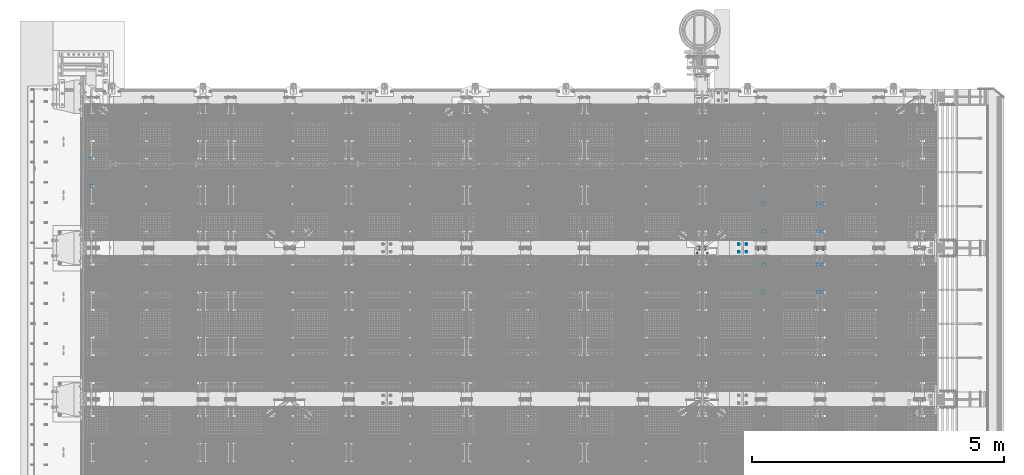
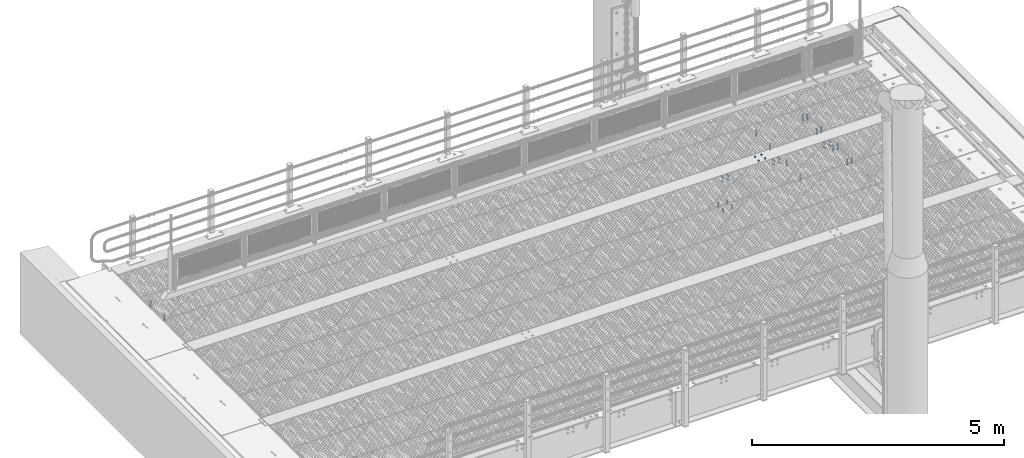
# One storey, part 30 of 1530: 12 mechanical fasteners.
"""IFC2X3 building model written with IfcOpenShell, lengths in millimetres."""

from ifc_helpers import new_model, si_unit, frame, origin_with_axes, place, context, subcontext, project, spatial, faceted_brep, source, transform, mapped, material, type_object, element, save


model = new_model("IFC2X3")

# Units and contexts
model_context = context("Model", 3, precision=1e-05, world=origin_with_axes())
body_context = subcontext(model_context, "Body", "Model", "MODEL_VIEW")
ifc_project = project(units=[si_unit("LENGTHUNIT", "METRE", prefix="MILLI"), si_unit("AREAUNIT", "SQUARE_METRE"), si_unit("VOLUMEUNIT", "CUBIC_METRE"), si_unit("MASSUNIT", "GRAM", prefix="KILO"), si_unit("TIMEUNIT", "SECOND"), si_unit("PLANEANGLEUNIT", "RADIAN"), si_unit("SOLIDANGLEUNIT", "STERADIAN"), si_unit("THERMODYNAMICTEMPERATUREUNIT", "DEGREE_CELSIUS"), si_unit("LUMINOUSINTENSITYUNIT", "LUMEN")], contexts=[model_context])

# Site, building, storey
site_placement = place(None, origin_with_axes())
site = spatial("IfcSite", under=ifc_project, at=site_placement, Name="Brattvåg", CompositionType="ELEMENT")
building_placement = place(site_placement, origin_with_axes())
building = spatial("IfcBuilding", under=site, at=building_placement, Name="Undefined", CompositionType="ELEMENT")
storey_placement = place(building_placement, origin_with_axes())
storey = spatial("IfcBuildingStorey", under=building, at=storey_placement, Name="Undefined", CompositionType="ELEMENT", Elevation=0.0)

# Mechanical fasteners
ifc_material = material(Name="8")
mechanical_fastener_type = type_object("IfcMechanicalFastenerType", Name="Bolt assembly")
shared_shape_1 = source(origin_with_axes(), body_context, "Body", "Brep", [
    faceted_brep([(17.3205080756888, -10.5, 0.0), (8.66025403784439, -10.5, 15.0), (-8.66025403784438, -10.5, 15.0), (-17.3205080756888, -10.5, 2.12115047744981e-15), (-8.66025403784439, -10.5, -15.0), (8.66025403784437, -10.5, -15.0), (8.66025403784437, 2.0, -15.0), (-8.66025403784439, 2.0, -15.0), (-17.3205080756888, 2.0, 2.12115047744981e-15), (-8.66025403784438, 2.0, 15.0), (8.66025403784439, 2.0, 15.0), (17.3205080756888, 2.0, 0.0), (10.0, 2.0, 0.0), (8.66025403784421, 2.0, 5.0000000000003), (4.9999999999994, 2.0, 8.66025403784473), (-1.03633598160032e-12, 2.0, 10.0), (-5.00000000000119, 2.0, 8.6602540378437), (-8.66025403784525, 2.0, 4.99999999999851), (-10.0, 2.0, -2.07267196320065e-12), (-8.66025403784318, 2.0, -5.00000000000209), (-4.99999999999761, 2.0, -8.66025403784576), (3.09790571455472e-12, 2.0, -10.0), (5.00000000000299, 2.0, -8.66025403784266), (8.66025403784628, 2.0, -4.99999999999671), (8.66025403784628, 142.0, -4.99999999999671), (5.00000000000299, 142.0, -8.66025403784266), (3.09790571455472e-12, 142.0, -10.0), (-4.99999999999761, 142.0, -8.66025403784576), (-8.66025403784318, 142.0, -5.00000000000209), (-10.0, 142.0, -2.07267196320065e-12), (-8.66025403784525, 142.0, 4.99999999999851), (-5.00000000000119, 142.0, 8.6602540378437), (-1.03633598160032e-12, 142.0, 10.0), (4.9999999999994, 142.0, 8.66025403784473), (8.66025403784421, 142.0, 5.0000000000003), (10.0, 142.0, 0.0), (18.5, 2.0, 0.0), (16.0214699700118, 2.0, 9.25000000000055), (9.2499999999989, 2.0, 16.0214699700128), (-1.9172215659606e-12, 2.0, 18.5), (-9.25000000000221, 2.0, 16.0214699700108), (-16.0214699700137, 2.0, 9.24999999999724), (-18.5, 2.0, -3.83444313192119e-12), (-16.0214699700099, 2.0, -9.25000000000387), (-9.24999999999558, 2.0, -16.0214699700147), (5.73112557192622e-12, 2.0, -18.5), (9.25000000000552, 2.0, -16.0214699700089), (16.0214699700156, 2.0, -9.24999999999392), (16.0214699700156, 5.0, -9.24999999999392), (9.25000000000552, 5.0, -16.0214699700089), (5.73112557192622e-12, 5.0, -18.5), (-9.24999999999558, 5.0, -16.0214699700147), (-16.0214699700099, 5.0, -9.25000000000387), (-18.5, 5.0, -3.83444313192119e-12), (-16.0214699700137, 5.0, 9.24999999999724), (-9.25000000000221, 5.0, 16.0214699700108), (-1.9172215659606e-12, 5.0, 18.5), (9.2499999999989, 5.0, 16.0214699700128), (16.0214699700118, 5.0, 9.25000000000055), (18.5, 5.0, 0.0), (18.5, 109.998931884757, 0.0), (16.0214699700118, 109.998931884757, 9.25000000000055), (9.2499999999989, 109.998931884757, 16.0214699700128), (-1.9172215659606e-12, 109.998931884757, 18.5), (-9.25000000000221, 109.998931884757, 16.0214699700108), (-16.0214699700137, 109.998931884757, 9.24999999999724), (-18.5, 109.998931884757, -3.83444313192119e-12), (-16.0214699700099, 109.998931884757, -9.25000000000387), (-9.24999999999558, 109.998931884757, -16.0214699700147), (5.73112557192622e-12, 109.998931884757, -18.5), (9.25000000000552, 109.998931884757, -16.0214699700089), (16.0214699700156, 109.998931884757, -9.24999999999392), (16.0214699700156, 112.998931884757, -9.24999999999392), (9.25000000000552, 112.998931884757, -16.0214699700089), (5.73112557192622e-12, 112.998931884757, -18.5), (-9.24999999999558, 112.998931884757, -16.0214699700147), (-16.0214699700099, 112.998931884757, -9.25000000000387), (-18.5, 112.998931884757, -3.83444313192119e-12), (-16.0214699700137, 112.998931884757, 9.24999999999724), (-9.25000000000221, 112.998931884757, 16.0214699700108), (-1.9172215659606e-12, 112.998931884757, 18.5), (9.2499999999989, 112.998931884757, 16.0214699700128), (16.0214699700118, 112.998931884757, 9.25000000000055), (18.5, 112.998931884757, 0.0), (17.3205080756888, 112.998931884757, 0.0), (8.66025403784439, 112.998931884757, 15.0), (-8.66025403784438, 112.998931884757, 15.0), (-17.3205080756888, 112.998931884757, 2.12115047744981e-15), (-8.66025403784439, 112.998931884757, -15.0), (8.66025403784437, 112.998931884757, -15.0), (8.66025403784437, 130.998931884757, -15.0), (-8.66025403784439, 130.998931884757, -15.0), (-17.3205080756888, 130.998931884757, 2.12115047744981e-15), (-8.66025403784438, 130.998931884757, 15.0), (8.66025403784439, 130.998931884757, 15.0), (17.3205080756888, 130.998931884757, 0.0)], [[[0, 1, 2, 3, 4, 5]], [[6, 7, 8, 9, 10, 11]], [[0, 11, 10, 1]], [[1, 10, 9, 2]], [[2, 9, 8, 3]], [[3, 8, 7, 4]], [[4, 7, 6, 5]], [[5, 6, 11, 0]], [[12, 13, 14, 15, 16, 17, 18, 19, 20, 21, 22, 23]], [[24, 25, 26, 27, 28, 29, 30, 31, 32, 33, 34, 35]], [[12, 35, 34, 13]], [[13, 34, 33, 14]], [[14, 33, 32, 15]], [[15, 32, 31, 16]], [[16, 31, 30, 17]], [[17, 30, 29, 18]], [[18, 29, 28, 19]], [[19, 28, 27, 20]], [[20, 27, 26, 21]], [[21, 26, 25, 22]], [[22, 25, 24, 23]], [[23, 24, 35, 12]], [[36, 37, 38, 39, 40, 41, 42, 43, 44, 45, 46, 47]], [[48, 49, 50, 51, 52, 53, 54, 55, 56, 57, 58, 59]], [[36, 59, 58, 37]], [[37, 58, 57, 38]], [[38, 57, 56, 39]], [[39, 56, 55, 40]], [[40, 55, 54, 41]], [[41, 54, 53, 42]], [[42, 53, 52, 43]], [[43, 52, 51, 44]], [[44, 51, 50, 45]], [[45, 50, 49, 46]], [[46, 49, 48, 47]], [[47, 48, 59, 36]], [[60, 61, 62, 63, 64, 65, 66, 67, 68, 69, 70, 71]], [[72, 73, 74, 75, 76, 77, 78, 79, 80, 81, 82, 83]], [[60, 83, 82, 61]], [[61, 82, 81, 62]], [[62, 81, 80, 63]], [[63, 80, 79, 64]], [[64, 79, 78, 65]], [[65, 78, 77, 66]], [[66, 77, 76, 67]], [[67, 76, 75, 68]], [[68, 75, 74, 69]], [[69, 74, 73, 70]], [[70, 73, 72, 71]], [[71, 72, 83, 60]], [[84, 85, 86, 87, 88, 89]], [[90, 91, 92, 93, 94, 95]], [[84, 95, 94, 85]], [[85, 94, 93, 86]], [[86, 93, 92, 87]], [[87, 92, 91, 88]], [[88, 91, 90, 89]], [[89, 90, 95, 84]]]),
])
for number, where, z_axis, x_axis, name in (
    (1, (14636.0047793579, 6327.91931152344, -25.0), (-1.0, 1.99999855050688e-09, 0.0), (0.0, 1.0, 0.0), "Bolt assembly"),
    (2, (14636.0047793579, 5121.91931152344, -25.0), (-1.0, 1.99999855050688e-09, 0.0), (0.0, 1.0, 0.0), "Bolt assembly"),
    (3, (14536.0148773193, 6327.9204864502, -25.0), (-1.0, 1.99999855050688e-09, 0.0), (0.0, 1.0, 0.0), "Bolt assembly"),
    (4, (13468.0119254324, 6327.99, -25.0), (-1.0, 1.99999855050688e-09, 0.0), (0.0, 1.0, 0.0), "Bolt assembly"),
    (5, (14536.0148773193, 5121.9204864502, -25.0), (-1.0, 1.99999855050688e-09, 0.0), (0.0, 1.0, 0.0), "Bolt assembly"),
    (6, (13468.0119254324, 5121.99, -25.0), (-1.0, 1.99999855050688e-09, 0.0), (0.0, 1.0, 0.0), "Bolt assembly"),
    (7, (137.004779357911, 7224.91931152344, -25.0), (-1.0, 1.99999855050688e-09, 0.0), (0.0, 1.0, 0.0), "Bolt assembly"),
):
    element("IfcMechanicalFastener", number, at=place(storey_placement, frame(where, z_axis=z_axis, x_axis=x_axis)), inside=storey, type_object=mechanical_fastener_type, material=ifc_material, Name=name, NominalDiameter=20.0, NominalLength=140.0, context=body_context, shape_type="MappedRepresentation", body=[
        mapped(shared_shape_1, transform((0.0, 0.0, 0.0))),
        mapped(shared_shape_1, transform((549.999999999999, 0.0, 0.0))),
    ])
shared_shape_2 = source(origin_with_axes(), body_context, "Body", "Brep", [
    faceted_brep([(16.0, 0.0, 0.0), (13.8564064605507, 0.0, 8.00000000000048), (7.99999999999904, 0.0, 13.8564064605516), (-1.65813757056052e-12, 0.0, 16.0), (-8.00000000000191, 0.0, 13.8564064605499), (-13.8564064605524, 0.0, 7.99999999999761), (-16.0, 0.0, -3.31627514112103e-12), (-13.8564064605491, 0.0, -8.00000000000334), (-7.99999999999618, 0.0, -13.8564064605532), (4.95664914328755e-12, 0.0, -16.0), (8.00000000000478, 0.0, -13.8564064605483), (13.8564064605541, 0.0, -7.99999999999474), (13.8564064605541, 30.1, -7.99999999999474), (8.00000000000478, 30.1, -13.8564064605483), (4.95664914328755e-12, 30.1, -16.0), (-7.99999999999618, 30.1, -13.8564064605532), (-13.8564064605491, 30.1, -8.00000000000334), (-16.0, 30.1, -3.31627514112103e-12), (-13.8564064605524, 30.1, 7.99999999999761), (-8.00000000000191, 30.1, 13.8564064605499), (-1.65813757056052e-12, 30.1, 16.0), (7.99999999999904, 30.1, 13.8564064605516), (13.8564064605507, 30.1, 8.00000000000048), (16.0, 30.1, 0.0)], [[[0, 1, 2, 3, 4, 5, 6, 7, 8, 9, 10, 11]], [[12, 13, 14, 15, 16, 17, 18, 19, 20, 21, 22, 23]], [[0, 23, 22, 1]], [[1, 22, 21, 2]], [[2, 21, 20, 3]], [[3, 20, 19, 4]], [[4, 19, 18, 5]], [[5, 18, 17, 6]], [[6, 17, 16, 7]], [[7, 16, 15, 8]], [[8, 15, 14, 9]], [[9, 14, 13, 10]], [[10, 13, 12, 11]], [[11, 12, 23, 0]]]),
])
mechanical_fastener_1_placement = place(storey_placement, frame((13125.0, 6000.0, 0.0), z_axis=(0.0, -1.0, 0.0), x_axis=(-1.0, 1.99999855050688e-09, 0.0)))
element("IfcMechanicalFastener", 8, at=mechanical_fastener_1_placement, inside=storey, type_object=mechanical_fastener_type, material=ifc_material, Name="Bolt assembly", NominalDiameter=30.0, NominalLength=30.0, context=body_context, shape_type="MappedRepresentation", body=[
    mapped(shared_shape_2, transform((0.0, 0.0, -75.0))),
    mapped(shared_shape_2, transform((150.0, 0.0, -75.0))),
    mapped(shared_shape_2, transform((0.0, 0.0, 75.0))),
    mapped(shared_shape_2, transform((150.0, 0.0, 75.0))),
])
shared_shape_3 = source(origin_with_axes(), body_context, "Body", "Brep", [
    faceted_brep([(20.7846096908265, -19.0, 0.0), (10.3923048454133, -19.0, 18.0), (-10.3923048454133, -19.0, 18.0), (-20.7846096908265, -19.0, 2.54538057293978e-15), (-10.3923048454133, -19.0, -18.0), (10.3923048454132, -19.0, -18.0), (10.3923048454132, -4.0, -18.0), (-10.3923048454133, -4.0, -18.0), (-20.7846096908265, -4.0, 2.54538057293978e-15), (-10.3923048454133, -4.0, 18.0), (10.3923048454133, -4.0, 18.0), (20.7846096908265, -4.0, 0.0), (12.0, -4.0, 0.0), (10.3923048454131, -4.0, 6.00000000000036), (5.99999999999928, -4.0, 10.3923048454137), (-1.24360317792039e-12, -4.0, 12.0), (-6.00000000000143, -4.0, 10.3923048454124), (-10.3923048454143, -4.0, 5.99999999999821), (-12.0, -4.0, -2.48720635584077e-12), (-10.3923048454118, -4.0, -6.00000000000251), (-5.99999999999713, -4.0, -10.3923048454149), (3.71748685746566e-12, -4.0, -12.0), (6.00000000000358, -4.0, -10.3923048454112), (10.3923048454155, -4.0, -5.99999999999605), (10.3923048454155, 86.0, -5.99999999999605), (6.00000000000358, 86.0, -10.3923048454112), (3.71748685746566e-12, 86.0, -12.0), (-5.99999999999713, 86.0, -10.3923048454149), (-10.3923048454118, 86.0, -6.00000000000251), (-12.0, 86.0, -2.48720635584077e-12), (-10.3923048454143, 86.0, 5.99999999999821), (-6.00000000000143, 86.0, 10.3923048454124), (-1.24360317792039e-12, 86.0, 12.0), (5.99999999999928, 86.0, 10.3923048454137), (10.3923048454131, 86.0, 6.00000000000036), (12.0, 86.0, 0.0), (22.0, -4.0, 0.0), (19.0525588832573, -4.0, 11.0000000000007), (10.9999999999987, -4.0, 19.0525588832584), (-2.27993915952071e-12, -4.0, 22.0), (-11.0000000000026, -4.0, 19.0525588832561), (-19.0525588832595, -4.0, 10.9999999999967), (-22.0, -4.0, -4.55987831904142e-12), (-19.052558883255, -4.0, -11.0000000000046), (-10.9999999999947, -4.0, -19.0525588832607), (6.81539257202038e-12, -4.0, -22.0), (11.0000000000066, -4.0, -19.0525588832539), (19.0525588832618, -4.0, -10.9999999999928), (19.0525588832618, 0.0, -10.9999999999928), (11.0000000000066, 0.0, -19.0525588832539), (6.81539257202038e-12, 0.0, -22.0), (-10.9999999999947, 0.0, -19.0525588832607), (-19.052558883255, 0.0, -11.0000000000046), (-22.0, 0.0, -4.55987831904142e-12), (-19.0525588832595, 0.0, 10.9999999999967), (-11.0000000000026, 0.0, 19.0525588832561), (-2.27993915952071e-12, 0.0, 22.0), (10.9999999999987, 0.0, 19.0525588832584), (19.0525588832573, 0.0, 11.0000000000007), (22.0, 0.0, 0.0), (22.0, 54.9998779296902, 0.0), (19.0525588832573, 54.9998779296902, 11.0000000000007), (10.9999999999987, 54.9998779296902, 19.0525588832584), (-2.27993915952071e-12, 54.9998779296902, 22.0), (-11.0000000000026, 54.9998779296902, 19.0525588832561), (-19.0525588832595, 54.9998779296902, 10.9999999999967), (-22.0, 54.9998779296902, -4.55987831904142e-12), (-19.052558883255, 54.9998779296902, -11.0000000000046), (-10.9999999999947, 54.9998779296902, -19.0525588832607), (6.81539257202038e-12, 54.9998779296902, -22.0), (11.0000000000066, 54.9998779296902, -19.0525588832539), (19.0525588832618, 54.9998779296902, -10.9999999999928), (19.0525588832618, 58.9998779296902, -10.9999999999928), (11.0000000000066, 58.9998779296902, -19.0525588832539), (6.81539257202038e-12, 58.9998779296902, -22.0), (-10.9999999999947, 58.9998779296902, -19.0525588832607), (-19.052558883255, 58.9998779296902, -11.0000000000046), (-22.0, 58.9998779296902, -4.55987831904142e-12), (-19.0525588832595, 58.9998779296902, 10.9999999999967), (-11.0000000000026, 58.9998779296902, 19.0525588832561), (-2.27993915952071e-12, 58.9998779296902, 22.0), (10.9999999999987, 58.9998779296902, 19.0525588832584), (19.0525588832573, 58.9998779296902, 11.0000000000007), (22.0, 58.9998779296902, 0.0), (20.7846096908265, 58.9998779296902, 0.0), (10.3923048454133, 58.9998779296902, 18.0), (-10.3923048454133, 58.9998779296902, 18.0), (-20.7846096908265, 58.9998779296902, 2.54538057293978e-15), (-10.3923048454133, 58.9998779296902, -18.0), (10.3923048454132, 58.9998779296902, -18.0), (10.3923048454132, 80.4998779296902, -18.0), (-10.3923048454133, 80.4998779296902, -18.0), (-20.7846096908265, 80.4998779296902, 2.54538057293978e-15), (-10.3923048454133, 80.4998779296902, 18.0), (10.3923048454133, 80.4998779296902, 18.0), (20.7846096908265, 80.4998779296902, 0.0)], [[[0, 1, 2, 3, 4, 5]], [[6, 7, 8, 9, 10, 11]], [[0, 11, 10, 1]], [[1, 10, 9, 2]], [[2, 9, 8, 3]], [[3, 8, 7, 4]], [[4, 7, 6, 5]], [[5, 6, 11, 0]], [[12, 13, 14, 15, 16, 17, 18, 19, 20, 21, 22, 23]], [[24, 25, 26, 27, 28, 29, 30, 31, 32, 33, 34, 35]], [[12, 35, 34, 13]], [[13, 34, 33, 14]], [[14, 33, 32, 15]], [[15, 32, 31, 16]], [[16, 31, 30, 17]], [[17, 30, 29, 18]], [[18, 29, 28, 19]], [[19, 28, 27, 20]], [[20, 27, 26, 21]], [[21, 26, 25, 22]], [[22, 25, 24, 23]], [[23, 24, 35, 12]], [[36, 37, 38, 39, 40, 41, 42, 43, 44, 45, 46, 47]], [[48, 49, 50, 51, 52, 53, 54, 55, 56, 57, 58, 59]], [[36, 59, 58, 37]], [[37, 58, 57, 38]], [[38, 57, 56, 39]], [[39, 56, 55, 40]], [[40, 55, 54, 41]], [[41, 54, 53, 42]], [[42, 53, 52, 43]], [[43, 52, 51, 44]], [[44, 51, 50, 45]], [[45, 50, 49, 46]], [[46, 49, 48, 47]], [[47, 48, 59, 36]], [[60, 61, 62, 63, 64, 65, 66, 67, 68, 69, 70, 71]], [[72, 73, 74, 75, 76, 77, 78, 79, 80, 81, 82, 83]], [[60, 83, 82, 61]], [[61, 82, 81, 62]], [[62, 81, 80, 63]], [[63, 80, 79, 64]], [[64, 79, 78, 65]], [[65, 78, 77, 66]], [[66, 77, 76, 67]], [[67, 76, 75, 68]], [[68, 75, 74, 69]], [[69, 74, 73, 70]], [[70, 73, 72, 71]], [[71, 72, 83, 60]], [[84, 85, 86, 87, 88, 89]], [[90, 91, 92, 93, 94, 95]], [[84, 95, 94, 85]], [[85, 94, 93, 86]], [[86, 93, 92, 87]], [[87, 92, 91, 88]], [[88, 91, 90, 89]], [[89, 90, 95, 84]]]),
    faceted_brep([(13.0, 0.0999999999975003, 0.0), (11.2583302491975, 0.0999999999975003, 6.50000000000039), (6.49999999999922, 0.0999999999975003, 11.2583302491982), (-1.34723677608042e-12, 0.0999999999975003, 13.0), (-6.50000000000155, 0.0999999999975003, 11.2583302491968), (-11.2583302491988, 0.0999999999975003, 6.49999999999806), (-13.0, 0.0999999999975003, -2.69447355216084e-12), (-11.2583302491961, 0.0999999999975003, -6.50000000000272), (-6.4999999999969, 0.0999999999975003, -11.2583302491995), (4.02727742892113e-12, 0.0999999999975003, -13.0), (6.50000000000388, 0.0999999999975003, -11.2583302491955), (11.2583302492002, 0.0999999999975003, -6.49999999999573), (11.2583302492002, 30.1, -6.49999999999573), (6.50000000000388, 30.1, -11.2583302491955), (4.02727742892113e-12, 30.1, -13.0), (-6.4999999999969, 30.1, -11.2583302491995), (-11.2583302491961, 30.1, -6.50000000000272), (-13.0, 30.1, -2.69447355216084e-12), (-11.2583302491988, 30.1, 6.49999999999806), (-6.50000000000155, 30.1, 11.2583302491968), (-1.34723677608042e-12, 30.1, 13.0), (6.49999999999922, 30.1, 11.2583302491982), (11.2583302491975, 30.1, 6.50000000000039), (13.0, 30.1, 0.0), (13.0, 29.8998779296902, 0.0), (11.2583302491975, 29.8998779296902, 6.50000000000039), (6.49999999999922, 29.8998779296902, 11.2583302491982), (-1.34723677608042e-12, 29.8998779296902, 13.0), (-6.50000000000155, 29.8998779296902, 11.2583302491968), (-11.2583302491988, 29.8998779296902, 6.49999999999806), (-13.0, 29.8998779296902, -2.69447355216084e-12), (-11.2583302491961, 29.8998779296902, -6.50000000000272), (-6.4999999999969, 29.8998779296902, -11.2583302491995), (4.02727742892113e-12, 29.8998779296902, -13.0), (6.50000000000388, 29.8998779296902, -11.2583302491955), (11.2583302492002, 29.8998779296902, -6.49999999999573), (11.2583302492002, 54.9998779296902, -6.49999999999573), (6.50000000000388, 54.9998779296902, -11.2583302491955), (4.02727742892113e-12, 54.9998779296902, -13.0), (-6.4999999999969, 54.9998779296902, -11.2583302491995), (-11.2583302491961, 54.9998779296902, -6.50000000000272), (-13.0, 54.9998779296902, -2.69447355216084e-12), (-11.2583302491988, 54.9998779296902, 6.49999999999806), (-6.50000000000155, 54.9998779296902, 11.2583302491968), (-1.34723677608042e-12, 54.9998779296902, 13.0), (6.49999999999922, 54.9998779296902, 11.2583302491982), (11.2583302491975, 54.9998779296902, 6.50000000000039), (13.0, 54.9998779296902, 0.0)], [[[0, 1, 2, 3, 4, 5, 6, 7, 8, 9, 10, 11]], [[12, 13, 14, 15, 16, 17, 18, 19, 20, 21, 22, 23]], [[0, 23, 22, 1]], [[1, 22, 21, 2]], [[2, 21, 20, 3]], [[3, 20, 19, 4]], [[4, 19, 18, 5]], [[5, 18, 17, 6]], [[6, 17, 16, 7]], [[7, 16, 15, 8]], [[8, 15, 14, 9]], [[9, 14, 13, 10]], [[10, 13, 12, 11]], [[11, 12, 23, 0]], [[24, 25, 26, 27, 28, 29, 30, 31, 32, 33, 34, 35]], [[36, 37, 38, 39, 40, 41, 42, 43, 44, 45, 46, 47]], [[24, 47, 46, 25]], [[25, 46, 45, 26]], [[26, 45, 44, 27]], [[27, 44, 43, 28]], [[28, 43, 42, 29]], [[29, 42, 41, 30]], [[30, 41, 40, 31]], [[31, 40, 39, 32]], [[32, 39, 38, 33]], [[33, 38, 37, 34]], [[34, 37, 36, 35]], [[35, 36, 47, 24]]]),
])
mechanical_fastener_2_placement = place(storey_placement, frame((12250.0000839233, 6100.0, -860.0), z_axis=(1.0, 0.0, 0.0), x_axis=(0.0, -1.0, 0.0)))
element("IfcMechanicalFastener", 9, at=mechanical_fastener_2_placement, inside=storey, type_object=mechanical_fastener_type, material=ifc_material, Name="Bolt assembly", NominalDiameter=24.0, NominalLength=90.0, context=body_context, shape_type="MappedRepresentation", body=[
    mapped(shared_shape_3, transform((0.0, 0.0, -100.0))),
    mapped(shared_shape_3, transform((200.0, 0.0, -100.0))),
    mapped(shared_shape_3, transform((0.0, 0.0, 100.0))),
    mapped(shared_shape_3, transform((200.0, 0.0, 100.0))),
])
shared_shape_4 = source(origin_with_axes(), body_context, "Body", "Brep", [
    faceted_brep([(17.3205080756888, -15.5000000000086, 0.0), (8.66025403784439, -15.5000000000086, 15.0), (-8.66025403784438, -15.5000000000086, 15.0), (-17.3205080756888, -15.5000000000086, 2.12115047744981e-15), (-8.66025403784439, -15.5000000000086, -15.0), (8.66025403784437, -15.5000000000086, -15.0), (8.66025403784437, -3.00000000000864, -15.0), (-8.66025403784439, -3.00000000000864, -15.0), (-17.3205080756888, -3.00000000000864, 2.12115047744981e-15), (-8.66025403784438, -3.00000000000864, 15.0), (8.66025403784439, -3.00000000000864, 15.0), (17.3205080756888, -3.00000000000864, 0.0), (10.0, -3.00000000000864, 0.0), (8.66025403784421, -3.00000000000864, 5.0000000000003), (4.9999999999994, -3.00000000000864, 8.66025403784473), (-1.03633598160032e-12, -3.00000000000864, 10.0), (-5.00000000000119, -3.00000000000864, 8.6602540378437), (-8.66025403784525, -3.00000000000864, 4.99999999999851), (-10.0, -3.00000000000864, -2.07267196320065e-12), (-8.66025403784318, -3.00000000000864, -5.00000000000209), (-4.99999999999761, -3.00000000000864, -8.66025403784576), (3.09790571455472e-12, -3.00000000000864, -10.0), (5.00000000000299, -3.00000000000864, -8.66025403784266), (8.66025403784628, -3.00000000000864, -4.99999999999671), (8.66025403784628, 72.0, -4.99999999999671), (5.00000000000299, 72.0, -8.66025403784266), (3.09790571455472e-12, 72.0, -10.0), (-4.99999999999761, 72.0, -8.66025403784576), (-8.66025403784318, 72.0, -5.00000000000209), (-10.0, 72.0, -2.07267196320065e-12), (-8.66025403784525, 72.0, 4.99999999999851), (-5.00000000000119, 72.0, 8.6602540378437), (-1.03633598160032e-12, 72.0, 10.0), (4.9999999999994, 72.0, 8.66025403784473), (8.66025403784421, 72.0, 5.0000000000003), (10.0, 72.0, 0.0), (18.5, -3.00000000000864, 0.0), (16.0214699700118, -3.00000000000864, 9.25000000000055), (9.2499999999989, -3.00000000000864, 16.0214699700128), (-1.9172215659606e-12, -3.00000000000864, 18.5), (-9.25000000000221, -3.00000000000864, 16.0214699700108), (-16.0214699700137, -3.00000000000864, 9.24999999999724), (-18.5, -3.00000000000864, -3.83444313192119e-12), (-16.0214699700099, -3.00000000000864, -9.25000000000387), (-9.24999999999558, -3.00000000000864, -16.0214699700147), (5.73112557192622e-12, -3.00000000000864, -18.5), (9.25000000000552, -3.00000000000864, -16.0214699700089), (16.0214699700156, -3.00000000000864, -9.24999999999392), (16.0214699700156, -8.64019966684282e-12, -9.24999999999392), (9.25000000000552, -8.64019966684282e-12, -16.0214699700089), (5.73112557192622e-12, -8.64019966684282e-12, -18.5), (-9.24999999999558, -8.64019966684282e-12, -16.0214699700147), (-16.0214699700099, -8.64019966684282e-12, -9.25000000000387), (-18.5, -8.64019966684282e-12, -3.83444313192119e-12), (-16.0214699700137, -8.64019966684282e-12, 9.24999999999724), (-9.25000000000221, -8.64019966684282e-12, 16.0214699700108), (-1.9172215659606e-12, -8.64019966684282e-12, 18.5), (9.2499999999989, -8.64019966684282e-12, 16.0214699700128), (16.0214699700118, -8.64019966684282e-12, 9.25000000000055), (18.5, -8.64019966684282e-12, 0.0), (18.5, 46.000061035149, 0.0), (16.0214699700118, 46.000061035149, 9.25000000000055), (9.2499999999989, 46.000061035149, 16.0214699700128), (-1.9172215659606e-12, 46.000061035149, 18.5), (-9.25000000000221, 46.000061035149, 16.0214699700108), (-16.0214699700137, 46.000061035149, 9.24999999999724), (-18.5, 46.000061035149, -3.83444313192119e-12), (-16.0214699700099, 46.000061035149, -9.25000000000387), (-9.24999999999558, 46.000061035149, -16.0214699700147), (5.73112557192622e-12, 46.000061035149, -18.5), (9.25000000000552, 46.000061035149, -16.0214699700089), (16.0214699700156, 46.000061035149, -9.24999999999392), (16.0214699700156, 49.000061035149, -9.24999999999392), (9.25000000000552, 49.000061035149, -16.0214699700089), (5.73112557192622e-12, 49.000061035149, -18.5), (-9.24999999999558, 49.000061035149, -16.0214699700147), (-16.0214699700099, 49.000061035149, -9.25000000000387), (-18.5, 49.000061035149, -3.83444313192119e-12), (-16.0214699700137, 49.000061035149, 9.24999999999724), (-9.25000000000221, 49.000061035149, 16.0214699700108), (-1.9172215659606e-12, 49.000061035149, 18.5), (9.2499999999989, 49.000061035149, 16.0214699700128), (16.0214699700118, 49.000061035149, 9.25000000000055), (18.5, 49.000061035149, 0.0), (17.3205080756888, 49.000061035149, 0.0), (8.66025403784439, 49.000061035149, 15.0), (-8.66025403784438, 49.000061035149, 15.0), (-17.3205080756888, 49.000061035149, 2.12115047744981e-15), (-8.66025403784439, 49.000061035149, -15.0), (8.66025403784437, 49.000061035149, -15.0), (8.66025403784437, 67.000061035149, -15.0), (-8.66025403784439, 67.000061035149, -15.0), (-17.3205080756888, 67.000061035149, 2.12115047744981e-15), (-8.66025403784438, 67.000061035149, 15.0), (8.66025403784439, 67.000061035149, 15.0), (17.3205080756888, 67.000061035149, 0.0)], [[[0, 1, 2, 3, 4, 5]], [[6, 7, 8, 9, 10, 11]], [[0, 11, 10, 1]], [[1, 10, 9, 2]], [[2, 9, 8, 3]], [[3, 8, 7, 4]], [[4, 7, 6, 5]], [[5, 6, 11, 0]], [[12, 13, 14, 15, 16, 17, 18, 19, 20, 21, 22, 23]], [[24, 25, 26, 27, 28, 29, 30, 31, 32, 33, 34, 35]], [[12, 35, 34, 13]], [[13, 34, 33, 14]], [[14, 33, 32, 15]], [[15, 32, 31, 16]], [[16, 31, 30, 17]], [[17, 30, 29, 18]], [[18, 29, 28, 19]], [[19, 28, 27, 20]], [[20, 27, 26, 21]], [[21, 26, 25, 22]], [[22, 25, 24, 23]], [[23, 24, 35, 12]], [[36, 37, 38, 39, 40, 41, 42, 43, 44, 45, 46, 47]], [[48, 49, 50, 51, 52, 53, 54, 55, 56, 57, 58, 59]], [[36, 59, 58, 37]], [[37, 58, 57, 38]], [[38, 57, 56, 39]], [[39, 56, 55, 40]], [[40, 55, 54, 41]], [[41, 54, 53, 42]], [[42, 53, 52, 43]], [[43, 52, 51, 44]], [[44, 51, 50, 45]], [[45, 50, 49, 46]], [[46, 49, 48, 47]], [[47, 48, 59, 36]], [[60, 61, 62, 63, 64, 65, 66, 67, 68, 69, 70, 71]], [[72, 73, 74, 75, 76, 77, 78, 79, 80, 81, 82, 83]], [[60, 83, 82, 61]], [[61, 82, 81, 62]], [[62, 81, 80, 63]], [[63, 80, 79, 64]], [[64, 79, 78, 65]], [[65, 78, 77, 66]], [[66, 77, 76, 67]], [[67, 76, 75, 68]], [[68, 75, 74, 69]], [[69, 74, 73, 70]], [[70, 73, 72, 71]], [[71, 72, 83, 60]], [[84, 85, 86, 87, 88, 89]], [[90, 91, 92, 93, 94, 95]], [[84, 95, 94, 85]], [[85, 94, 93, 86]], [[86, 93, 92, 87]], [[87, 92, 91, 88]], [[88, 91, 90, 89]], [[89, 90, 95, 84]]]),
    faceted_brep([(11.0, 0.1, 0.0), (9.52627944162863, 0.1, 5.50000000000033), (5.49999999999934, 0.1, 9.5262794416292), (-1.13996957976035e-12, 0.1, 11.0), (-5.50000000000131, 0.1, 9.52627944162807), (-9.52627944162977, 0.1, 5.49999999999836), (-11.0, 0.1, -2.27993915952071e-12), (-9.5262794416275, 0.1, -5.5000000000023), (-5.49999999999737, 0.1, -9.52627944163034), (3.40769628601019e-12, 0.1, -11.0), (5.50000000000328, 0.1, -9.52627944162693), (9.52627944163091, 0.1, -5.49999999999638), (9.52627944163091, 15.1, -5.49999999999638), (5.50000000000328, 15.1, -9.52627944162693), (3.40769628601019e-12, 15.1, -11.0), (-5.49999999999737, 15.1, -9.52627944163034), (-9.5262794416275, 15.1, -5.5000000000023), (-11.0, 15.1, -2.27993915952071e-12), (-9.52627944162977, 15.1, 5.49999999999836), (-5.50000000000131, 15.1, 9.52627944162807), (-1.13996957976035e-12, 15.1, 11.0), (5.49999999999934, 15.1, 9.5262794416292), (9.52627944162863, 15.1, 5.50000000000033), (11.0, 15.1, 0.0), (11.0, 15.0015563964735, 0.0), (9.52627944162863, 15.0015563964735, 5.50000000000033), (5.49999999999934, 15.0015563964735, 9.5262794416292), (-1.13996957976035e-12, 15.0015563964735, 11.0), (-5.50000000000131, 15.0015563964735, 9.52627944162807), (-9.52627944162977, 15.0015563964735, 5.49999999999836), (-11.0, 15.0015563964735, -2.27993915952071e-12), (-9.5262794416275, 15.0015563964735, -5.5000000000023), (-5.49999999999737, 15.0015563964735, -9.52627944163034), (3.40769628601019e-12, 15.0015563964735, -11.0), (5.50000000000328, 15.0015563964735, -9.52627944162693), (9.52627944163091, 15.0015563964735, -5.49999999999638), (9.52627944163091, 31.0015563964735, -5.49999999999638), (5.50000000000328, 31.0015563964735, -9.52627944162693), (3.40769628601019e-12, 31.0015563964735, -11.0), (-5.49999999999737, 31.0015563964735, -9.52627944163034), (-9.5262794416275, 31.0015563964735, -5.5000000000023), (-11.0, 31.0015563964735, -2.27993915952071e-12), (-9.52627944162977, 31.0015563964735, 5.49999999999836), (-5.50000000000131, 31.0015563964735, 9.52627944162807), (-1.13996957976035e-12, 31.0015563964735, 11.0), (5.49999999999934, 31.0015563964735, 9.5262794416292), (9.52627944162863, 31.0015563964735, 5.50000000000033), (11.0, 31.0015563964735, 0.0), (11.0, 30.900061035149, 0.0), (9.52627944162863, 30.900061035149, 5.50000000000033), (5.49999999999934, 30.900061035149, 9.5262794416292), (-1.13996957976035e-12, 30.900061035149, 11.0), (-5.50000000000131, 30.900061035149, 9.52627944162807), (-9.52627944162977, 30.900061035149, 5.49999999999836), (-11.0, 30.900061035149, -2.27993915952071e-12), (-9.5262794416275, 30.900061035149, -5.5000000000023), (-5.49999999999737, 30.900061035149, -9.52627944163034), (3.40769628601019e-12, 30.900061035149, -11.0), (5.50000000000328, 30.900061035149, -9.52627944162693), (9.52627944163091, 30.900061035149, -5.49999999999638), (9.52627944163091, 46.000061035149, -5.49999999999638), (5.50000000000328, 46.000061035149, -9.52627944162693), (3.40769628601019e-12, 46.000061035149, -11.0), (-5.49999999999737, 46.000061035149, -9.52627944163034), (-9.5262794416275, 46.000061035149, -5.5000000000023), (-11.0, 46.000061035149, -2.27993915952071e-12), (-9.52627944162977, 46.000061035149, 5.49999999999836), (-5.50000000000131, 46.000061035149, 9.52627944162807), (-1.13996957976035e-12, 46.000061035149, 11.0), (5.49999999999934, 46.000061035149, 9.5262794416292), (9.52627944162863, 46.000061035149, 5.50000000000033), (11.0, 46.000061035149, 0.0)], [[[0, 1, 2, 3, 4, 5, 6, 7, 8, 9, 10, 11]], [[12, 13, 14, 15, 16, 17, 18, 19, 20, 21, 22, 23]], [[0, 23, 22, 1]], [[1, 22, 21, 2]], [[2, 21, 20, 3]], [[3, 20, 19, 4]], [[4, 19, 18, 5]], [[5, 18, 17, 6]], [[6, 17, 16, 7]], [[7, 16, 15, 8]], [[8, 15, 14, 9]], [[9, 14, 13, 10]], [[10, 13, 12, 11]], [[11, 12, 23, 0]], [[24, 25, 26, 27, 28, 29, 30, 31, 32, 33, 34, 35]], [[36, 37, 38, 39, 40, 41, 42, 43, 44, 45, 46, 47]], [[24, 47, 46, 25]], [[25, 46, 45, 26]], [[26, 45, 44, 27]], [[27, 44, 43, 28]], [[28, 43, 42, 29]], [[29, 42, 41, 30]], [[30, 41, 40, 31]], [[31, 40, 39, 32]], [[32, 39, 38, 33]], [[33, 38, 37, 34]], [[34, 37, 36, 35]], [[35, 36, 47, 24]], [[48, 49, 50, 51, 52, 53, 54, 55, 56, 57, 58, 59]], [[60, 61, 62, 63, 64, 65, 66, 67, 68, 69, 70, 71]], [[48, 71, 70, 49]], [[49, 70, 69, 50]], [[50, 69, 68, 51]], [[51, 68, 67, 52]], [[52, 67, 66, 53]], [[53, 66, 65, 54]], [[54, 65, 64, 55]], [[55, 64, 63, 56]], [[56, 63, 62, 57]], [[57, 62, 61, 58]], [[58, 61, 60, 59]], [[59, 60, 71, 48]]]),
])
for number, where, z_axis, x_axis, name in (
    (10, (12310.0019683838, 6023.00155639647, -219.998836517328), (0.0, 0.0, 1.0), (-1.0, 1.99999855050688e-09, 0.0), "Bolt assembly"),
    (11, (13478.0019683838, 6023.00155639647, -219.998836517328), (0.0, 0.0, 1.0), (-1.0, 1.99999855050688e-09, 0.0), "Bolt assembly"),
    (12, (14646.0019683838, 6023.00155639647, -219.998836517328), (0.0, 0.0, 1.0), (-1.0, 1.99999855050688e-09, 0.0), "Bolt assembly"),
):
    element("IfcMechanicalFastener", number, at=place(storey_placement, frame(where, z_axis=z_axis, x_axis=x_axis)), inside=storey, type_object=mechanical_fastener_type, material=ifc_material, Name=name, NominalDiameter=20.0, NominalLength=75.0, context=body_context, shape_type="MappedRepresentation", body=[
        mapped(shared_shape_4, transform((0.0, 0.0, -50.0))),
        mapped(shared_shape_4, transform((120.0, 0.0, -50.0))),
        mapped(shared_shape_4, transform((0.0, 0.0, 50.0))),
        mapped(shared_shape_4, transform((120.0, 0.0, 50.0))),
    ])

save(model, "model.ifc")
